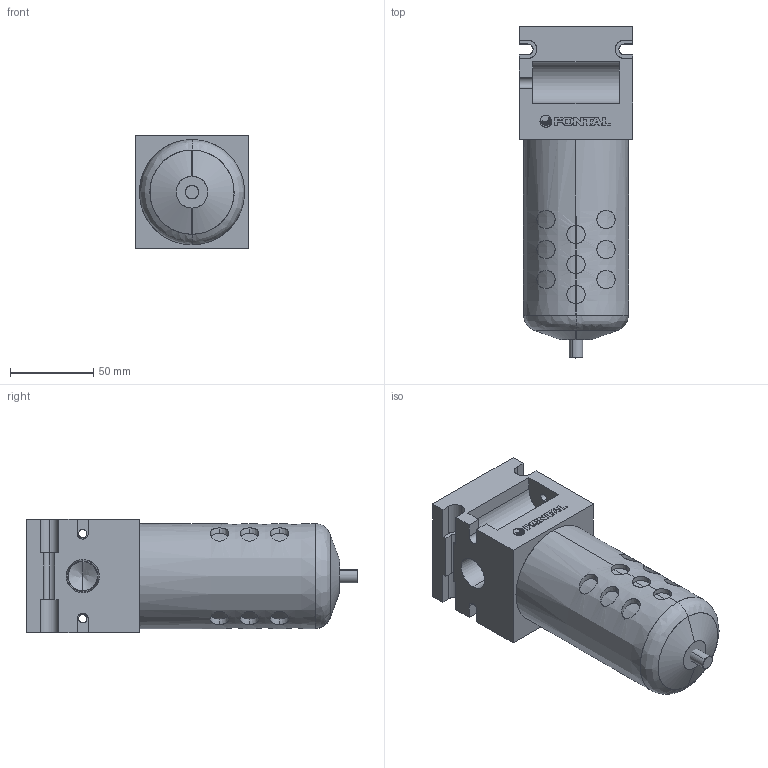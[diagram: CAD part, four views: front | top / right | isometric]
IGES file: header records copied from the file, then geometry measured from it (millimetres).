
Start section: SolidWorks IGES file using analytic representation for surfaces
Global section: file name: D:\Custom\3D繪製\調質機器\空氣過濾器\F105-04#Y#.IGS; native system: SolidWorks 2014; preprocessor: SolidWorks 2014; author: Chieh_Lu; date: 160115.025817; units: millimetre
Bounding box: 68 x 199 x 68.2 mm (x, y, z)
Surface area: 69497.8 mm2 (no closed solid volume)
Topology: 0 solids, 0 shells, 238 faces, 4364 edges, 4360 vertices
Faces by surface type: revolution 119, bspline 119
